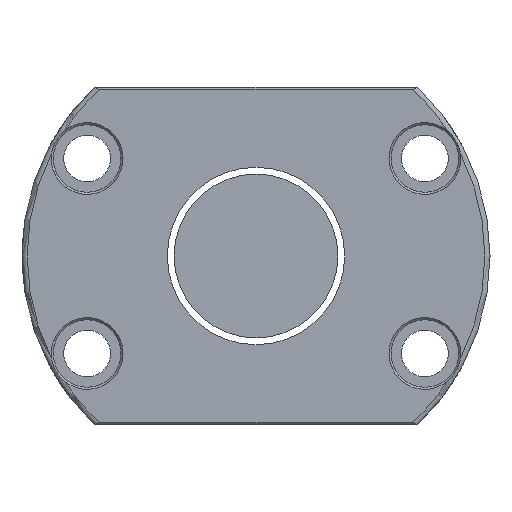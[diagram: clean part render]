
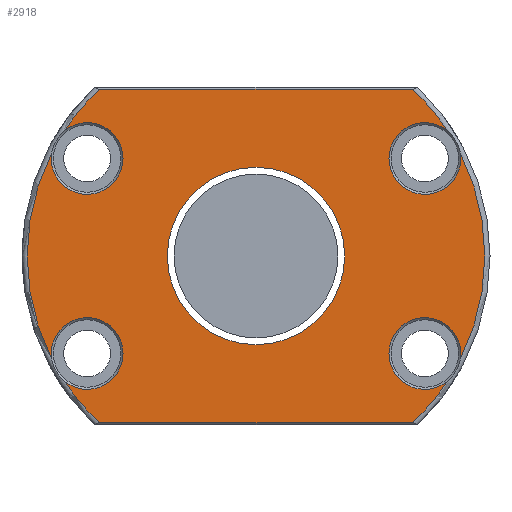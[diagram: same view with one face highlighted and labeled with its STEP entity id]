
A CAD part, left-side view. The second image highlights one B-rep face of the part: STEP entity #2918.
In plain terms, the highlighted planar face has unit normal (-1, 0, 0).
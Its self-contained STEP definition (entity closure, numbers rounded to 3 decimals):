
#38 = ORIENTED_EDGE ( 'NONE', *, *, #1106, .T. ) ;
#82 = AXIS2_PLACEMENT_3D ( 'NONE', #2082, #2404, #149 ) ;
#149 = DIRECTION ( 'NONE',  ( 0., 0., 1. ) ) ;
#185 = DIRECTION ( 'NONE',  ( 1., 0., 0. ) ) ;
#208 = DIRECTION ( 'NONE',  ( 0., 0., 1. ) ) ;
#225 = VERTEX_POINT ( 'NONE', #1529 ) ;
#232 = DIRECTION ( 'NONE',  ( -1., 0., 0. ) ) ;
#238 = DIRECTION ( 'NONE',  ( -1., 0., 0. ) ) ;
#294 = EDGE_CURVE ( 'NONE', #225, #1898, #3525, .T. ) ;
#302 = VECTOR ( 'NONE', #609, 1000. ) ;
#369 = CARTESIAN_POINT ( 'NONE',  ( -120., 60.186, 64.2 ) ) ;
#405 = CARTESIAN_POINT ( 'NONE',  ( -120., -64.952, -37.5 ) ) ;
#451 = CIRCLE ( 'NONE', #2019, 13.8 ) ;
#466 = PLANE ( 'NONE',  #3039 ) ;
#505 = AXIS2_PLACEMENT_3D ( 'NONE', #2769, #238, #776 ) ;
#559 = AXIS2_PLACEMENT_3D ( 'NONE', #3221, #3244, #3178 ) ;
#569 = VERTEX_POINT ( 'NONE', #589 ) ;
#589 = CARTESIAN_POINT ( 'NONE',  ( -120., -60.186, 64.2 ) ) ;
#609 = DIRECTION ( 'NONE',  ( 0., 1., 0. ) ) ;
#640 = VERTEX_POINT ( 'NONE', #2275 ) ;
#678 = CARTESIAN_POINT ( 'NONE',  ( -120., 78.593, 39.587 ) ) ;
#718 = CARTESIAN_POINT ( 'NONE',  ( -120., 64.952, 37.5 ) ) ;
#721 = DIRECTION ( 'NONE',  ( 0., 0., 1. ) ) ;
#776 = DIRECTION ( 'NONE',  ( 0., 0., 1. ) ) ;
#798 = AXIS2_PLACEMENT_3D ( 'NONE', #1574, #1280, #1073 ) ;
#840 = CARTESIAN_POINT ( 'NONE',  ( -120., 0., 0. ) ) ;
#851 = VERTEX_POINT ( 'NONE', #369 ) ;
#860 = EDGE_CURVE ( 'NONE', #1689, #1689, #2161, .T. ) ;
#884 = CARTESIAN_POINT ( 'NONE',  ( -120., 73.58, 48.27 ) ) ;
#889 = EDGE_LOOP ( 'NONE', ( #3175, #2878, #2138, #1686, #1834, #2788, #2338, #2333, #2938, #2989, #38, #3240 ) ) ;
#993 = FACE_OUTER_BOUND ( 'NONE', #889, .T. ) ;
#1015 = AXIS2_PLACEMENT_3D ( 'NONE', #2445, #1828, #1329 ) ;
#1073 = DIRECTION ( 'NONE',  ( 0., 0., 1. ) ) ;
#1098 = VERTEX_POINT ( 'NONE', #3262 ) ;
#1106 = EDGE_CURVE ( 'NONE', #640, #225, #2137, .T. ) ;
#1126 = EDGE_CURVE ( 'NONE', #2719, #2685, #3620, .T. ) ;
#1162 = CARTESIAN_POINT ( 'NONE',  ( -120., -78.593, 39.587 ) ) ;
#1254 = EDGE_LOOP ( 'NONE', ( #1804 ) ) ;
#1280 = DIRECTION ( 'NONE',  ( -1., 0., 0. ) ) ;
#1329 = DIRECTION ( 'NONE',  ( 0., 0., 1. ) ) ;
#1344 = CARTESIAN_POINT ( 'NONE',  ( -120., 64.952, -37.5 ) ) ;
#1374 = CIRCLE ( 'NONE', #3217, 88. ) ;
#1488 = CIRCLE ( 'NONE', #2267, 88. ) ;
#1529 = CARTESIAN_POINT ( 'NONE',  ( -120., 73.58, -48.27 ) ) ;
#1533 = CARTESIAN_POINT ( 'NONE',  ( -120., 0., 0. ) ) ;
#1569 = DIRECTION ( 'NONE',  ( 1., 0., 0. ) ) ;
#1574 = CARTESIAN_POINT ( 'NONE',  ( -120., 0., 0. ) ) ;
#1585 = EDGE_CURVE ( 'NONE', #2090, #2916, #2005, .T. ) ;
#1601 = CIRCLE ( 'NONE', #2200, 88. ) ;
#1686 = ORIENTED_EDGE ( 'NONE', *, *, #2998, .T. ) ;
#1689 = VERTEX_POINT ( 'NONE', #2270 ) ;
#1697 = LINE ( 'NONE', #2029, #302 ) ;
#1773 = CARTESIAN_POINT ( 'NONE',  ( -120., -62.249, -64.2 ) ) ;
#1783 = EDGE_CURVE ( 'NONE', #2916, #640, #1601, .T. ) ;
#1804 = ORIENTED_EDGE ( 'NONE', *, *, #860, .T. ) ;
#1816 = DIRECTION ( 'NONE',  ( 0., -1., 0. ) ) ;
#1828 = DIRECTION ( 'NONE',  ( -1., 0., 0. ) ) ;
#1834 = ORIENTED_EDGE ( 'NONE', *, *, #2895, .T. ) ;
#1881 = FACE_BOUND ( 'NONE', #1254, .T. ) ;
#1898 = VERTEX_POINT ( 'NONE', #3060 ) ;
#1899 = AXIS2_PLACEMENT_3D ( 'NONE', #718, #185, #3307 ) ;
#1959 = DIRECTION ( 'NONE',  ( 0., 0., 1. ) ) ;
#2005 = CIRCLE ( 'NONE', #1899, 13.8 ) ;
#2019 = AXIS2_PLACEMENT_3D ( 'NONE', #405, #1569, #2702 ) ;
#2029 = CARTESIAN_POINT ( 'NONE',  ( -120., 62.249, 64.2 ) ) ;
#2031 = DIRECTION ( 'NONE',  ( -1., 0., 0. ) ) ;
#2082 = CARTESIAN_POINT ( 'NONE',  ( -120., -64.952, 37.5 ) ) ;
#2090 = VERTEX_POINT ( 'NONE', #884 ) ;
#2122 = CARTESIAN_POINT ( 'NONE',  ( -120., 90., 0. ) ) ;
#2129 = EDGE_CURVE ( 'NONE', #569, #851, #1697, .T. ) ;
#2137 = CIRCLE ( 'NONE', #3323, 13.8 ) ;
#2138 = ORIENTED_EDGE ( 'NONE', *, *, #2550, .T. ) ;
#2161 = CIRCLE ( 'NONE', #559, 34.1 ) ;
#2200 = AXIS2_PLACEMENT_3D ( 'NONE', #2795, #232, #1959 ) ;
#2217 = CARTESIAN_POINT ( 'NONE',  ( -120., -73.58, -48.27 ) ) ;
#2267 = AXIS2_PLACEMENT_3D ( 'NONE', #1533, #2031, #2356 ) ;
#2270 = CARTESIAN_POINT ( 'NONE',  ( -120., 0., -34.1 ) ) ;
#2275 = CARTESIAN_POINT ( 'NONE',  ( -120., 78.593, -39.587 ) ) ;
#2301 = VERTEX_POINT ( 'NONE', #2726 ) ;
#2333 = ORIENTED_EDGE ( 'NONE', *, *, #2623, .T. ) ;
#2338 = ORIENTED_EDGE ( 'NONE', *, *, #2129, .T. ) ;
#2356 = DIRECTION ( 'NONE',  ( 0., 0., 1. ) ) ;
#2390 = VECTOR ( 'NONE', #1816, 1000. ) ;
#2404 = DIRECTION ( 'NONE',  ( 1., 0., 0. ) ) ;
#2445 = CARTESIAN_POINT ( 'NONE',  ( -120., 0., 0. ) ) ;
#2479 = DIRECTION ( 'NONE',  ( 1., 0., 0. ) ) ;
#2550 = EDGE_CURVE ( 'NONE', #2685, #2301, #451, .T. ) ;
#2618 = CIRCLE ( 'NONE', #505, 88. ) ;
#2623 = EDGE_CURVE ( 'NONE', #851, #2090, #1374, .T. ) ;
#2685 = VERTEX_POINT ( 'NONE', #2217 ) ;
#2702 = DIRECTION ( 'NONE',  ( 0., 0., 1. ) ) ;
#2719 = VERTEX_POINT ( 'NONE', #3313 ) ;
#2723 = EDGE_CURVE ( 'NONE', #1098, #569, #2618, .T. ) ;
#2726 = CARTESIAN_POINT ( 'NONE',  ( -120., -78.593, -39.587 ) ) ;
#2769 = CARTESIAN_POINT ( 'NONE',  ( -120., 0., 0. ) ) ;
#2788 = ORIENTED_EDGE ( 'NONE', *, *, #2723, .T. ) ;
#2795 = CARTESIAN_POINT ( 'NONE',  ( -120., 0., 0. ) ) ;
#2878 = ORIENTED_EDGE ( 'NONE', *, *, #1126, .T. ) ;
#2895 = EDGE_CURVE ( 'NONE', #3155, #1098, #3392, .T. ) ;
#2916 = VERTEX_POINT ( 'NONE', #678 ) ;
#2918 = ADVANCED_FACE ( 'NONE', ( #993, #1881 ), #466, .T. ) ;
#2938 = ORIENTED_EDGE ( 'NONE', *, *, #1585, .T. ) ;
#2989 = ORIENTED_EDGE ( 'NONE', *, *, #1783, .T. ) ;
#2998 = EDGE_CURVE ( 'NONE', #2301, #3155, #1488, .T. ) ;
#3039 = AXIS2_PLACEMENT_3D ( 'NONE', #2122, #3213, #721 ) ;
#3050 = DIRECTION ( 'NONE',  ( 0., 0., 1. ) ) ;
#3060 = CARTESIAN_POINT ( 'NONE',  ( -120., 60.186, -64.2 ) ) ;
#3155 = VERTEX_POINT ( 'NONE', #1162 ) ;
#3175 = ORIENTED_EDGE ( 'NONE', *, *, #3218, .T. ) ;
#3178 = DIRECTION ( 'NONE',  ( 0., 0., -1. ) ) ;
#3213 = DIRECTION ( 'NONE',  ( -1., 0., 0. ) ) ;
#3217 = AXIS2_PLACEMENT_3D ( 'NONE', #840, #3366, #3050 ) ;
#3218 = EDGE_CURVE ( 'NONE', #1898, #2719, #3468, .T. ) ;
#3221 = CARTESIAN_POINT ( 'NONE',  ( -120., 0., 0. ) ) ;
#3240 = ORIENTED_EDGE ( 'NONE', *, *, #294, .T. ) ;
#3244 = DIRECTION ( 'NONE',  ( 1., 0., 0. ) ) ;
#3262 = CARTESIAN_POINT ( 'NONE',  ( -120., -73.58, 48.27 ) ) ;
#3307 = DIRECTION ( 'NONE',  ( 0., 0., 1. ) ) ;
#3313 = CARTESIAN_POINT ( 'NONE',  ( -120., -60.186, -64.2 ) ) ;
#3323 = AXIS2_PLACEMENT_3D ( 'NONE', #1344, #2479, #208 ) ;
#3366 = DIRECTION ( 'NONE',  ( -1., 0., 0. ) ) ;
#3392 = CIRCLE ( 'NONE', #82, 13.8 ) ;
#3468 = LINE ( 'NONE', #1773, #2390 ) ;
#3525 = CIRCLE ( 'NONE', #798, 88. ) ;
#3620 = CIRCLE ( 'NONE', #1015, 88. ) ;
